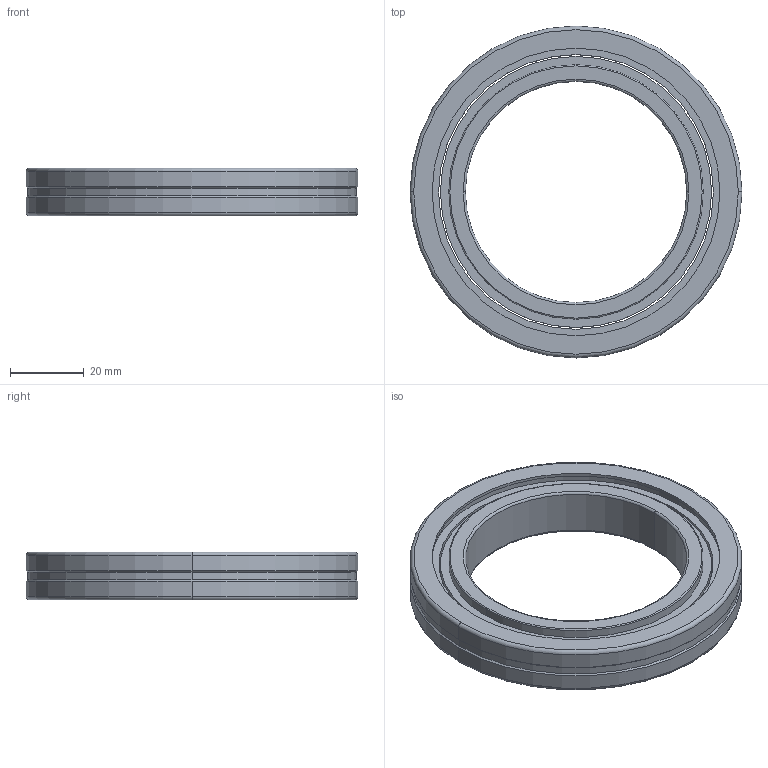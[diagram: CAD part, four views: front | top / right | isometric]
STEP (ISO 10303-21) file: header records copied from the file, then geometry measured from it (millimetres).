
FILE_DESCRIPTION((''),'2;1');
FILE_NAME('CRBH6013','2017-07-26T',('Administrator'),(''),'PRO/ENGINEER BY PARAMETRIC TECHNOLOGY CORPORATION, 2010180','PRO/ENGINEER BY PARAMETRIC TECHNOLOGY CORPORATION, 2010180','');
FILE_SCHEMA(('AUTOMOTIVE_DESIGN_CC2 { 1 2 10303 214 -1 1 5 2 }'));
Length unit declared in the file: millimetre
Products named in the file (1): CRBH6013
Bounding box: 90 x 90 x 13 mm (x, y, z)
Volume: 35923.4 mm3; surface area: 20128.3 mm2
Topology: 2 solids, 2 shells, 62 faces, 124 edges, 72 vertices
Faces by surface type: cylinder 28, torus 12, cone 12, plane 10
Entity records: 2043 total; most frequent: DIRECTION 332, CARTESIAN_POINT 258, ORIENTED_EDGE 248, AXIS2_PLACEMENT_3D 146, EDGE_CURVE 124, CIRCLE 84, VERTEX_POINT 72, EDGE_LOOP 72
